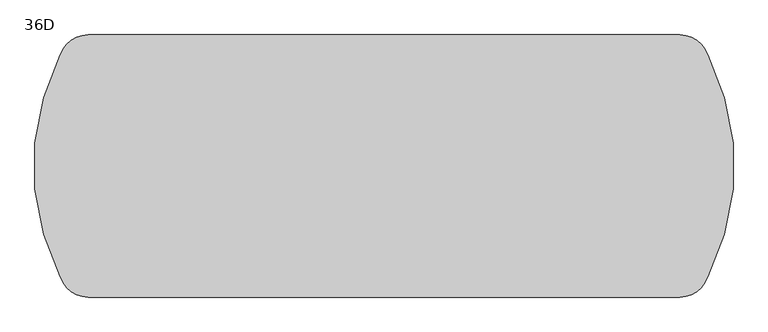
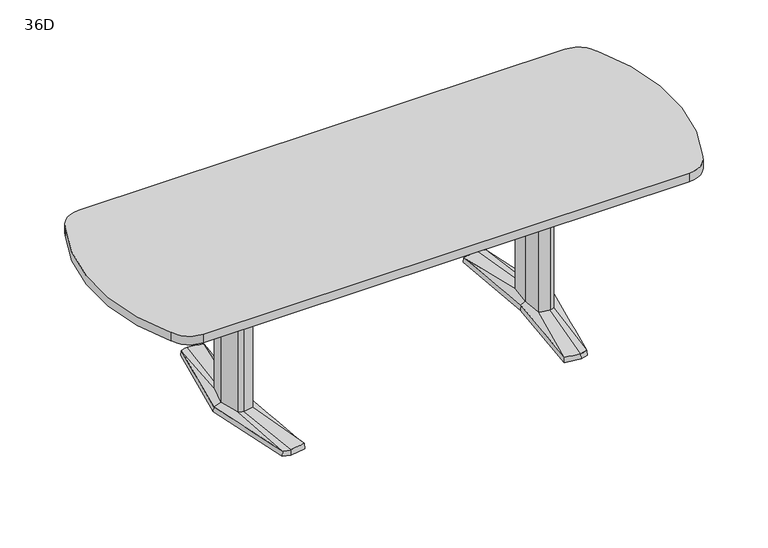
"""IFC4 building model written with IfcOpenShell, lengths in millimetres: furniture geometry, Coalesse_AM_Table_Conference_ETable2_SoftRadiused_96in_AluminiumBase : 36D."""

from ifc_helpers import new_model, si_unit, point, frame, frame_2d, origin, place, context, project, spatial, polyline, circle_curve, trimmed, segment, composite_curve, outline, extrude, source, transform, mapped, element, save
from ifc_brep_helpers import plane_surface, spline_surface, advanced_brep


def furniture_36d_7d7f5c59(model_context):
    return source(origin(), model_context, "Body", "SolidModel", [
        advanced_brep(
        [(614.8503471, -379.3768856, 25.4), (644.5756636, -371.5332654, 25.4), (668.2327243, -89.293702, 36.5125), (648.9795254, -94.605478, 36.5125), (606.0521001, -87.0529327, 36.5125), (551.7612538, -368.5071562, 25.4), (597.9364207, 0.0, 36.5125), (579.8389754, 0.3970149, 25.4), (606.0521001, 87.0529327, 36.5125), (551.7615002, 368.5172593, 25.4), (648.9795254, 94.605478, 36.5125), (614.8502233, 379.3769183, 25.4), (668.2327243, 89.293702, 36.5125), (644.7535458, 371.4863276, 25.4), (692.1595251, 0.0, 36.5125), (721.4851663, 0.0003516, 25.4), (578.2468742, 0.3968871, 3.175), (550.06875, 369.8367279, 3.175), (614.9213004, 381.0, 3.175), (646.1093245, 372.7704151, 3.175), (723.10625, 0.0, 3.175), (645.9309817, -372.8174744, 3.175), (614.9213004, -381.0, 3.175), (550.06875, -369.8264415, 3.175), (649.5979264, 107.6121478, 3.175), (594.3065451, 97.8843184, 3.175), (585.1810887, 0.0, 3.175), (594.3065451, -97.8843184, 3.175), (649.5979264, -107.6121478, 3.175), (678.6183473, -99.6056872, 3.175), (705.3083085, 0.0, 3.175), (678.6183473, 99.6056872, 3.175), (613.4286812, 346.9152841, 3.175), (557.7811371, 337.3364985, 3.175), (560.1889918, 324.8641942, 3.175), (612.8600644, 333.9306305, 3.175), (648.6725609, 324.4807859, 3.175), (647.5544526, 337.9105158, 3.175), (613.4286812, -346.9152841, 3.175), (647.5544526, -337.9105158, 3.175), (648.6725609, -324.4807859, 3.175), (612.8600644, -333.9306305, 3.175), (560.1889918, -324.8641942, 3.175), (557.7811371, -337.3364985, 3.175), (649.5979264, 107.6121478, 0.0), (678.6183473, 99.6056872, 0.0), (705.3083085, 0.0, 0.0), (678.6183473, -99.6056872, 0.0), (649.5979264, -107.6121478, 0.0), (594.3065451, -97.8843184, 0.0), (585.1810887, 0.0, 0.0), (594.3065451, 97.8843184, 0.0), (613.4286812, 346.9152841, 0.0), (647.5544526, 337.9105158, 0.0), (648.6725609, 324.4807859, 0.0), (612.8600644, 333.9306305, 0.0), (560.1889918, 324.8641942, 0.0), (557.7811371, 337.3364985, 0.0), (613.4286812, -346.9152841, 0.0), (557.7811371, -337.3364985, 0.0), (560.1889918, -324.8641942, 0.0), (612.8600644, -333.9306305, 0.0), (648.6725609, -324.4807859, 0.0), (647.5544526, -337.9105158, 0.0), (668.2327243, 89.293702, 698.5), (648.9795254, 94.605478, 698.5), (606.0521001, 87.0529327, 698.5), (597.9364207, 0.0, 698.5), (606.0521001, -87.0529327, 698.5), (648.9795254, -94.605478, 698.5), (668.2327243, -89.293702, 698.5), (692.1595251, 0.0, 698.5)],
        [
            (0, 1),
            (1, 2),
            (2, 3),
            (3, 0),
            (3, 4),
            (4, 5),
            (5, 0),
            (4, 6),
            (6, 7),
            (7, 5),
            (6, 8),
            (8, 9),
            (9, 7),
            (8, 10),
            (10, 11),
            (11, 9),
            (10, 12),
            (12, 13),
            (13, 11),
            (12, 14),
            (14, 15),
            (15, 13),
            (1, 15),
            (14, 2),
            (16, 17),
            (17, 18),
            (18, 19),
            (19, 20),
            (20, 21),
            (21, 22),
            (22, 23),
            (23, 16),
            (24, 25),
            (25, 26),
            (26, 27),
            (27, 28),
            (28, 29),
            (29, 30),
            (30, 31),
            (31, 24),
            (32, 33),
            (33, 34),
            (34, 35),
            (35, 36),
            (36, 37),
            (37, 32),
            (38, 39),
            (39, 40),
            (40, 41),
            (41, 42),
            (42, 43),
            (43, 38),
            (16, 7),
            (9, 17),
            (11, 18),
            (13, 19),
            (15, 20),
            (1, 21),
            (0, 22),
            (5, 23),
            (44, 45),
            (45, 46),
            (46, 47),
            (47, 48),
            (48, 49),
            (49, 50),
            (50, 51),
            (51, 44),
            (52, 53),
            (53, 54),
            (54, 55),
            (55, 56),
            (56, 57),
            (57, 52),
            (58, 59),
            (59, 60),
            (60, 61),
            (61, 62),
            (62, 63),
            (63, 58),
            (44, 24),
            (31, 45),
            (30, 46),
            (29, 47),
            (28, 48),
            (27, 49),
            (26, 50),
            (25, 51),
            (52, 32),
            (37, 53),
            (36, 54),
            (35, 55),
            (34, 56),
            (33, 57),
            (58, 38),
            (43, 59),
            (42, 60),
            (41, 61),
            (40, 62),
            (39, 63),
            (64, 65),
            (65, 66),
            (66, 67),
            (67, 68),
            (68, 69),
            (69, 70),
            (70, 71),
            (71, 64),
            (71, 14),
            (12, 64),
            (70, 2),
            (69, 3),
            (68, 4),
            (67, 6),
            (66, 8),
            (65, 10),
        ],
        [
            spline_surface(1, 1, [[(644.5756636, -371.5332654, 25.4), (614.8503471, -379.3768856, 25.4)], [(668.2327243, -89.293702, 36.5125), (648.9795254, -94.605478, 36.5125)]], [2, 2], [2, 2], [0.0, 1.0], [0.0, 1.0]),
            spline_surface(1, 1, [[(614.8503471, -379.3768856, 25.4), (551.7612538, -368.5071562, 25.4)], [(648.9795254, -94.605478, 36.5125), (606.0521001, -87.0529327, 36.5125)]], [2, 2], [2, 2], [0.0, 1.0], [0.0, 1.0]),
            spline_surface(1, 1, [[(551.7612538, -368.5071562, 25.4), (579.8389754, 0.3970149, 25.4)], [(606.0521001, -87.0529327, 36.5125), (597.9364207, 0.0, 36.5125)]], [2, 2], [2, 2], [0.0, 1.0], [0.0, 1.0]),
            spline_surface(1, 1, [[(579.8389754, 0.3970149, 25.4), (551.7615002, 368.5172593, 25.4)], [(597.9364207, 0.0, 36.5125), (606.0521001, 87.0529327, 36.5125)]], [2, 2], [2, 2], [0.0, 1.0], [0.0, 1.0]),
            spline_surface(1, 1, [[(551.7615002, 368.5172593, 25.4), (614.8502233, 379.3769183, 25.4)], [(606.0521001, 87.0529327, 36.5125), (648.9795254, 94.605478, 36.5125)]], [2, 2], [2, 2], [0.0, 1.0], [0.0, 1.0]),
            spline_surface(1, 1, [[(614.8502233, 379.3769183, 25.4), (644.7535458, 371.4863276, 25.4)], [(648.9795254, 94.605478, 36.5125), (668.2327243, 89.293702, 36.5125)]], [2, 2], [2, 2], [0.0, 1.0], [0.0, 1.0]),
            spline_surface(1, 1, [[(644.7535458, 371.4863276, 25.4), (721.4851663, 0.0003516, 25.4)], [(668.2327243, 89.293702, 36.5125), (692.1595251, 0.0, 36.5125)]], [2, 2], [2, 2], [0.0, 1.0], [0.0, 1.0]),
            spline_surface(1, 1, [[(721.4851663, 0.0003516, 25.4), (644.5756636, -371.5332654, 25.4)], [(692.1595251, 0.0, 36.5125), (668.2327243, -89.293702, 36.5125)]], [2, 2], [2, 2], [0.0, 1.0], [0.0, 1.0]),
            plane_surface(frame((615.4216914, 0.0450143, 3.175), z_axis=(0.0, 0.0, -1.0), x_axis=(-0.9669048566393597, -0.2551372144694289, 0.0))),
            plane_surface(frame((564.1578121, 185.1168075, 3.175), z_axis=(-0.9945699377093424, -0.07585840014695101, 0.0712470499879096), x_axis=(-0.07605167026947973, 0.9971038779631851, 0.0))),
            plane_surface(frame((582.4950252, 375.418364, 3.175), z_axis=(-0.1692071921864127, 0.9830019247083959, 0.07124704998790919), x_axis=(0.985506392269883, 0.16963829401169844, 0.0))),
            plane_surface(frame((630.5153124, 376.8852076, 3.175), z_axis=(0.2544888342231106, 0.9644476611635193, 0.07124704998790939), x_axis=(0.9669048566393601, -0.25513721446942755, 0.0))),
            plane_surface(frame((684.6077872, 186.3852076, 3.175), z_axis=(0.9768383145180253, 0.2017690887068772, 0.07124704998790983), x_axis=(0.20228315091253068, -0.9793270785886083, 0.0))),
            plane_surface(frame((684.5186158, -186.4087372, 3.175), z_axis=(0.9767507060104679, -0.20219276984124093, 0.07124704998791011), x_axis=(-0.2027079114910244, -0.9792392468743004, 0.0))),
            plane_surface(frame((630.426141, -376.9087372, 3.175), z_axis=(0.2544888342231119, -0.9644476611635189, 0.0712470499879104), x_axis=(-0.9669048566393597, -0.2551372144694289, 0.0))),
            plane_surface(frame((582.4950252, -375.4132207, 3.175), z_axis=(-0.16935861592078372, -0.982975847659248, 0.07124704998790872), x_axis=(-0.9854802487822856, 0.16979010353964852, 0.0))),
            plane_surface(frame((564.1578121, -184.7147772, 3.175), z_axis=(-0.9945820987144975, 0.07569878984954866, 0.07124704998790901), x_axis=(0.07589165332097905, 0.9971160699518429, 0.0))),
            plane_surface(frame((652.3571479, 106.8509046, 0.0), z_axis=(0.0, 0.0, -1.0000000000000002), x_axis=(-0.9639855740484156, 0.26595453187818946, 0.0))),
            plane_surface(frame((649.5979264, 107.6121478, 3.175), z_axis=(0.26595453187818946, 0.9639855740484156, 0.0), x_axis=(0.0, 0.0, -1.0))),
            plane_surface(frame((678.6183473, 99.6056872, 3.175), z_axis=(0.9659241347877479, 0.2588253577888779, 0.0), x_axis=(0.0, 0.0, -1.0))),
            plane_surface(frame((705.3083085, 0.0, 3.175), z_axis=(0.9659241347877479, -0.2588253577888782, 0.0), x_axis=(0.0, 0.0, -1.0))),
            plane_surface(frame((678.6183473, -99.6056872, 3.175), z_axis=(0.26595453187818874, -0.9639855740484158, 0.0), x_axis=(0.0, 0.0, -1.0))),
            plane_surface(frame((649.5979264, -107.6121478, 3.175), z_axis=(-0.17327617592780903, -0.9848732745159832, 0.0), x_axis=(0.0, 0.0, -1.0))),
            plane_surface(frame((594.3065451, -97.8843184, 3.175), z_axis=(-0.9956824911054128, -0.0928244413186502, 0.0), x_axis=(0.0, 0.0, -1.0))),
            plane_surface(frame((585.1810887, 0.0, 3.175), z_axis=(-0.9956824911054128, 0.09282444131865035, 0.0), x_axis=(0.0, 0.0, -1.0))),
            plane_surface(frame((594.3065451, 97.8843184, 3.175), z_axis=(-0.17327617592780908, 0.984873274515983, 0.0), x_axis=(0.0, 0.0, -1.0))),
            plane_surface(frame((613.4286812, 346.9152841, 3.175), z_axis=(0.25513721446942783, 0.9669048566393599, 0.0), x_axis=(0.0, 0.0, -1.0))),
            plane_surface(frame((647.5544526, 337.9105158, 3.175), z_axis=(0.9965521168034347, 0.0829691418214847, 0.0), x_axis=(0.0, 0.0, -1.0))),
            plane_surface(frame((648.6725609, 324.4807859, 3.175), z_axis=(-0.25513721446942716, -0.9669048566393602, 0.0), x_axis=(0.0, 0.0, -1.0))),
            plane_surface(frame((612.8600644, 333.9306305, 3.175), z_axis=(0.16963829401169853, -0.985506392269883, 0.0), x_axis=(0.0, 0.0, -1.0))),
            plane_surface(frame((560.1889918, 324.8641942, 3.175), z_axis=(-0.9818699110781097, -0.18955600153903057, 0.0), x_axis=(0.0, 0.0, -1.0))),
            plane_surface(frame((557.7811371, 337.3364985, 3.175), z_axis=(-0.16963829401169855, 0.9855063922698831, 0.0), x_axis=(0.0, 0.0, -1.0))),
            plane_surface(frame((613.4286812, -346.9152841, 3.175), z_axis=(-0.1696382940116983, -0.9855063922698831, 0.0), x_axis=(0.0, 0.0, -1.0))),
            plane_surface(frame((557.7811371, -337.3364985, 3.175), z_axis=(-0.9818699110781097, 0.18955600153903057, 0.0), x_axis=(0.0, 0.0, -1.0))),
            plane_surface(frame((560.1889918, -324.8641942, 3.175), z_axis=(0.16963829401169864, 0.985506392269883, 0.0), x_axis=(0.0, 0.0, -1.0))),
            plane_surface(frame((612.8600644, -333.9306305, 3.175), z_axis=(-0.2551372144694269, 0.9669048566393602, 0.0), x_axis=(0.0, 0.0, -1.0))),
            plane_surface(frame((648.6725609, -324.4807859, 3.175), z_axis=(0.9965521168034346, -0.0829691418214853, 0.0), x_axis=(0.0, 0.0, -1.0))),
            plane_surface(frame((647.5544526, -337.9105158, 3.175), z_axis=(0.2551372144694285, -0.9669048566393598, 0.0), x_axis=(0.0, 0.0, -1.0))),
            plane_surface(frame((692.1595251, 0.0, 698.5), z_axis=(0.0, 0.0, 1.0), x_axis=(0.25882535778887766, -0.965924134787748, 0.0))),
            plane_surface(frame((668.2327243, 89.293702, 698.5), z_axis=(0.965924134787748, 0.25882535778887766, 0.0), x_axis=(0.0, 0.0, -1.0))),
            plane_surface(frame((692.1595251, 0.0, 698.5), z_axis=(0.965924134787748, -0.2588253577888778, 0.0), x_axis=(0.0, 0.0, -1.0))),
            plane_surface(frame((668.2327243, -89.293702, 698.5), z_axis=(0.2659545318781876, -0.963985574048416, 0.0), x_axis=(0.0, 0.0, -1.0))),
            plane_surface(frame((648.9795254, -94.605478, 698.5), z_axis=(-0.1732761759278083, -0.9848732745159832, 0.0), x_axis=(0.0, 0.0, -1.0))),
            plane_surface(frame((606.0521001, -87.0529327, 698.5), z_axis=(-0.9956824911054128, -0.0928244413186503, 0.0), x_axis=(0.0, 0.0, -1.0))),
            plane_surface(frame((597.9364207, 0.0, 698.5), z_axis=(-0.9956824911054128, 0.09282444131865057, 0.0), x_axis=(0.0, 0.0, -1.0))),
            plane_surface(frame((606.0521001, 87.0529327, 698.5), z_axis=(-0.17327617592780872, 0.9848732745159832, 0.0), x_axis=(0.0, 0.0, -1.0))),
            plane_surface(frame((648.9795254, 94.605478, 698.5), z_axis=(0.26595453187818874, 0.9639855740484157, 0.0), x_axis=(0.0, 0.0, -1.0))),
        ],
        [
            (0, [[1, 2, 3, 4]]),
            (1, [[5, 6, 7, -4]]),
            (2, [[8, 9, 10, -6]]),
            (3, [[11, 12, 13, -9]]),
            (4, [[14, 15, 16, -12]]),
            (5, [[17, 18, 19, -15]]),
            (6, [[20, 21, 22, -18]]),
            (7, [[23, -21, 24, -2]]),
            (8, [[25, 26, 27, 28, 29, 30, 31, 32], [33, 34, 35, 36, 37, 38, 39, 40], [41, 42, 43, 44, 45, 46], [47, 48, 49, 50, 51, 52]]),
            (9, [[53, -13, 54, -25]]),
            (10, [[-54, -16, 55, -26]]),
            (11, [[-55, -19, 56, -27]]),
            (12, [[-56, -22, 57, -28]]),
            (13, [[-57, -23, 58, -29]]),
            (14, [[-58, -1, 59, -30]]),
            (15, [[-59, -7, 60, -31]]),
            (16, [[-60, -10, -53, -32]]),
            (17, [[61, 62, 63, 64, 65, 66, 67, 68]]),
            (17, [[69, 70, 71, 72, 73, 74]]),
            (17, [[75, 76, 77, 78, 79, 80]]),
            (18, [[81, -40, 82, -61]]),
            (19, [[-82, -39, 83, -62]]),
            (20, [[-83, -38, 84, -63]]),
            (21, [[-84, -37, 85, -64]]),
            (22, [[-85, -36, 86, -65]]),
            (23, [[-86, -35, 87, -66]]),
            (24, [[-87, -34, 88, -67]]),
            (25, [[-88, -33, -81, -68]]),
            (26, [[89, -46, 90, -69]]),
            (27, [[-90, -45, 91, -70]]),
            (28, [[-91, -44, 92, -71]]),
            (29, [[-92, -43, 93, -72]]),
            (30, [[-93, -42, 94, -73]]),
            (31, [[-94, -41, -89, -74]]),
            (32, [[95, -52, 96, -75]]),
            (33, [[-96, -51, 97, -76]]),
            (34, [[-97, -50, 98, -77]]),
            (35, [[-98, -49, 99, -78]]),
            (36, [[-99, -48, 100, -79]]),
            (37, [[-100, -47, -95, -80]]),
            (38, [[101, 102, 103, 104, 105, 106, 107, 108]]),
            (39, [[109, -20, 110, -108]]),
            (40, [[111, -24, -109, -107]]),
            (41, [[112, -3, -111, -106]]),
            (42, [[113, -5, -112, -105]]),
            (43, [[114, -8, -113, -104]]),
            (44, [[115, -11, -114, -103]]),
            (45, [[116, -14, -115, -102]]),
            (46, [[-110, -17, -116, -101]]),
        ],
    ),
        advanced_brep(
        [(-614.8503471, -379.3768856, 25.4), (-648.9795254, -94.605478, 36.5125), (-668.2327243, -89.293702, 36.5125), (-644.5756636, -371.5332654, 25.4), (-551.7612538, -368.5071562, 25.4), (-606.0521001, -87.0529327, 36.5125), (-579.8389754, 0.3970149, 25.4), (-597.9364207, 0.0, 36.5125), (-551.7615002, 368.5172593, 25.4), (-606.0521001, 87.0529327, 36.5125), (-614.8502233, 379.3769183, 25.4), (-648.9795254, 94.605478, 36.5125), (-644.7535458, 371.4863276, 25.4), (-668.2327243, 89.293702, 36.5125), (-721.4851663, 0.0003516, 25.4), (-692.1595251, 0.0, 36.5125), (-578.2468742, 0.3968871, 3.175), (-550.06875, -369.8264415, 3.175), (-614.9213004, -381.0, 3.175), (-645.9309817, -372.8174744, 3.175), (-723.10625, 0.0, 3.175), (-646.1093245, 372.7704151, 3.175), (-614.9213004, 381.0, 3.175), (-550.06875, 369.8367279, 3.175), (-649.5979264, 107.6121478, 3.175), (-678.6183473, 99.6056872, 3.175), (-705.3083085, 0.0, 3.175), (-678.6183473, -99.6056872, 3.175), (-649.5979264, -107.6121478, 3.175), (-594.3065451, -97.8843184, 3.175), (-585.1810887, 0.0, 3.175), (-594.3065451, 97.8843184, 3.175), (-613.4286812, 346.9152841, 3.175), (-647.5544526, 337.9105158, 3.175), (-648.6725609, 324.4807859, 3.175), (-612.8600644, 333.9306305, 3.175), (-560.1889918, 324.8641942, 3.175), (-557.7811371, 337.3364985, 3.175), (-613.4286812, -346.9152841, 3.175), (-557.7811371, -337.3364985, 3.175), (-560.1889918, -324.8641942, 3.175), (-612.8600644, -333.9306305, 3.175), (-648.6725609, -324.4807859, 3.175), (-647.5544526, -337.9105158, 3.175), (-649.5979264, 107.6121478, 0.0), (-594.3065451, 97.8843184, 0.0), (-585.1810887, 0.0, 0.0), (-594.3065451, -97.8843184, 0.0), (-649.5979264, -107.6121478, 0.0), (-678.6183473, -99.6056872, 0.0), (-705.3083085, 0.0, 0.0), (-678.6183473, 99.6056872, 0.0), (-613.4286812, 346.9152841, 0.0), (-557.7811371, 337.3364985, 0.0), (-560.1889918, 324.8641942, 0.0), (-612.8600644, 333.9306305, 0.0), (-648.6725609, 324.4807859, 0.0), (-647.5544526, 337.9105158, 0.0), (-613.4286812, -346.9152841, 0.0), (-647.5544526, -337.9105158, 0.0), (-648.6725609, -324.4807859, 0.0), (-612.8600644, -333.9306305, 0.0), (-560.1889918, -324.8641942, 0.0), (-557.7811371, -337.3364985, 0.0), (-668.2327243, 89.293702, 698.5), (-692.1595251, 0.0, 698.5), (-668.2327243, -89.293702, 698.5), (-648.9795254, -94.605478, 698.5), (-606.0521001, -87.0529327, 698.5), (-597.9364207, 0.0, 698.5), (-606.0521001, 87.0529327, 698.5), (-648.9795254, 94.605478, 698.5)],
        [
            (0, 1),
            (1, 2),
            (2, 3),
            (3, 0),
            (0, 4),
            (4, 5),
            (5, 1),
            (4, 6),
            (6, 7),
            (7, 5),
            (6, 8),
            (8, 9),
            (9, 7),
            (8, 10),
            (10, 11),
            (11, 9),
            (10, 12),
            (12, 13),
            (13, 11),
            (12, 14),
            (14, 15),
            (15, 13),
            (2, 15),
            (14, 3),
            (16, 17),
            (17, 18),
            (18, 19),
            (19, 20),
            (20, 21),
            (21, 22),
            (22, 23),
            (23, 16),
            (24, 25),
            (25, 26),
            (26, 27),
            (27, 28),
            (28, 29),
            (29, 30),
            (30, 31),
            (31, 24),
            (32, 33),
            (33, 34),
            (34, 35),
            (35, 36),
            (36, 37),
            (37, 32),
            (38, 39),
            (39, 40),
            (40, 41),
            (41, 42),
            (42, 43),
            (43, 38),
            (23, 8),
            (6, 16),
            (22, 10),
            (21, 12),
            (20, 14),
            (19, 3),
            (18, 0),
            (17, 4),
            (44, 45),
            (45, 46),
            (46, 47),
            (47, 48),
            (48, 49),
            (49, 50),
            (50, 51),
            (51, 44),
            (52, 53),
            (53, 54),
            (54, 55),
            (55, 56),
            (56, 57),
            (57, 52),
            (58, 59),
            (59, 60),
            (60, 61),
            (61, 62),
            (62, 63),
            (63, 58),
            (51, 25),
            (24, 44),
            (50, 26),
            (49, 27),
            (48, 28),
            (47, 29),
            (46, 30),
            (45, 31),
            (57, 33),
            (32, 52),
            (56, 34),
            (55, 35),
            (54, 36),
            (53, 37),
            (63, 39),
            (38, 58),
            (62, 40),
            (61, 41),
            (60, 42),
            (59, 43),
            (64, 65),
            (65, 66),
            (66, 67),
            (67, 68),
            (68, 69),
            (69, 70),
            (70, 71),
            (71, 64),
            (64, 13),
            (15, 65),
            (2, 66),
            (1, 67),
            (5, 68),
            (7, 69),
            (9, 70),
            (11, 71),
        ],
        [
            spline_surface(1, 1, [[(-644.5756636, -371.5332654, 25.4), (-668.2327243, -89.293702, 36.5125)], [(-614.8503471, -379.3768856, 25.4), (-648.9795254, -94.605478, 36.5125)]], [2, 2], [2, 2], [0.0, 1.0], [0.0, 1.0]),
            spline_surface(1, 1, [[(-614.8503471, -379.3768856, 25.4), (-648.9795254, -94.605478, 36.5125)], [(-551.7612538, -368.5071562, 25.4), (-606.0521001, -87.0529327, 36.5125)]], [2, 2], [2, 2], [0.0, 1.0], [0.0, 1.0]),
            spline_surface(1, 1, [[(-551.7612538, -368.5071562, 25.4), (-606.0521001, -87.0529327, 36.5125)], [(-579.8389754, 0.3970149, 25.4), (-597.9364207, 0.0, 36.5125)]], [2, 2], [2, 2], [0.0, 1.0], [0.0, 1.0]),
            spline_surface(1, 1, [[(-579.8389754, 0.3970149, 25.4), (-597.9364207, 0.0, 36.5125)], [(-551.7615002, 368.5172593, 25.4), (-606.0521001, 87.0529327, 36.5125)]], [2, 2], [2, 2], [0.0, 1.0], [0.0, 1.0]),
            spline_surface(1, 1, [[(-551.7615002, 368.5172593, 25.4), (-606.0521001, 87.0529327, 36.5125)], [(-614.8502233, 379.3769183, 25.4), (-648.9795254, 94.605478, 36.5125)]], [2, 2], [2, 2], [0.0, 1.0], [0.0, 1.0]),
            spline_surface(1, 1, [[(-614.8502233, 379.3769183, 25.4), (-648.9795254, 94.605478, 36.5125)], [(-644.7535458, 371.4863276, 25.4), (-668.2327243, 89.293702, 36.5125)]], [2, 2], [2, 2], [0.0, 1.0], [0.0, 1.0]),
            spline_surface(1, 1, [[(-644.7535458, 371.4863276, 25.4), (-668.2327243, 89.293702, 36.5125)], [(-721.4851663, 0.0003516, 25.4), (-692.1595251, 0.0, 36.5125)]], [2, 2], [2, 2], [0.0, 1.0], [0.0, 1.0]),
            spline_surface(1, 1, [[(-721.4851663, 0.0003516, 25.4), (-692.1595251, 0.0, 36.5125)], [(-644.5756636, -371.5332654, 25.4), (-668.2327243, -89.293702, 36.5125)]], [2, 2], [2, 2], [0.0, 1.0], [0.0, 1.0]),
            plane_surface(frame((-615.4216914, 0.0450143, 3.175), z_axis=(0.0, 0.0, -1.0), x_axis=(0.9669048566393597, -0.2551372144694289, 0.0))),
            plane_surface(frame((-564.1578121, 185.1168075, 3.175), z_axis=(0.9945699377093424, -0.07585840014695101, 0.0712470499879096), x_axis=(0.07605167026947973, 0.9971038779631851, 0.0))),
            plane_surface(frame((-582.4950252, 375.418364, 3.175), z_axis=(0.1692071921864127, 0.9830019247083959, 0.07124704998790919), x_axis=(-0.985506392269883, 0.16963829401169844, 0.0))),
            plane_surface(frame((-630.5153124, 376.8852076, 3.175), z_axis=(-0.2544888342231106, 0.9644476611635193, 0.07124704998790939), x_axis=(-0.9669048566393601, -0.25513721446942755, 0.0))),
            plane_surface(frame((-684.6077872, 186.3852076, 3.175), z_axis=(-0.9768383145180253, 0.2017690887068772, 0.07124704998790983), x_axis=(-0.20228315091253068, -0.9793270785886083, 0.0))),
            plane_surface(frame((-684.5186158, -186.4087372, 3.175), z_axis=(-0.9767507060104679, -0.20219276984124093, 0.07124704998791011), x_axis=(0.2027079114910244, -0.9792392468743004, 0.0))),
            plane_surface(frame((-630.426141, -376.9087372, 3.175), z_axis=(-0.2544888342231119, -0.9644476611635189, 0.0712470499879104), x_axis=(0.9669048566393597, -0.2551372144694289, 0.0))),
            plane_surface(frame((-582.4950252, -375.4132207, 3.175), z_axis=(0.16935861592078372, -0.982975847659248, 0.07124704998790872), x_axis=(0.9854802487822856, 0.16979010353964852, 0.0))),
            plane_surface(frame((-564.1578121, -184.7147772, 3.175), z_axis=(0.9945820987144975, 0.07569878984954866, 0.07124704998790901), x_axis=(-0.07589165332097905, 0.9971160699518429, 0.0))),
            plane_surface(frame((-652.3571479, 106.8509046, 0.0), z_axis=(0.0, 0.0, -1.0000000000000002), x_axis=(0.9639855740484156, 0.26595453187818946, 0.0))),
            plane_surface(frame((-649.5979264, 107.6121478, 3.175), z_axis=(-0.26595453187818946, 0.9639855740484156, 0.0), x_axis=(0.0, 0.0, -1.0))),
            plane_surface(frame((-678.6183473, 99.6056872, 3.175), z_axis=(-0.9659241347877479, 0.2588253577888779, 0.0), x_axis=(0.0, 0.0, -1.0))),
            plane_surface(frame((-705.3083085, 0.0, 3.175), z_axis=(-0.9659241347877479, -0.2588253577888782, 0.0), x_axis=(0.0, 0.0, -1.0))),
            plane_surface(frame((-678.6183473, -99.6056872, 3.175), z_axis=(-0.26595453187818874, -0.9639855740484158, 0.0), x_axis=(0.0, 0.0, -1.0))),
            plane_surface(frame((-649.5979264, -107.6121478, 3.175), z_axis=(0.17327617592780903, -0.9848732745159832, 0.0), x_axis=(0.0, 0.0, -1.0))),
            plane_surface(frame((-594.3065451, -97.8843184, 3.175), z_axis=(0.9956824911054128, -0.0928244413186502, 0.0), x_axis=(0.0, 0.0, -1.0))),
            plane_surface(frame((-585.1810887, 0.0, 3.175), z_axis=(0.9956824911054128, 0.09282444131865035, 0.0), x_axis=(0.0, 0.0, -1.0))),
            plane_surface(frame((-594.3065451, 97.8843184, 3.175), z_axis=(0.17327617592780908, 0.984873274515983, 0.0), x_axis=(0.0, 0.0, -1.0))),
            plane_surface(frame((-613.4286812, 346.9152841, 3.175), z_axis=(-0.25513721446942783, 0.9669048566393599, 0.0), x_axis=(0.0, 0.0, -1.0))),
            plane_surface(frame((-647.5544526, 337.9105158, 3.175), z_axis=(-0.9965521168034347, 0.0829691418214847, 0.0), x_axis=(0.0, 0.0, -1.0))),
            plane_surface(frame((-648.6725609, 324.4807859, 3.175), z_axis=(0.25513721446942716, -0.9669048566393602, 0.0), x_axis=(0.0, 0.0, -1.0))),
            plane_surface(frame((-612.8600644, 333.9306305, 3.175), z_axis=(-0.16963829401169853, -0.985506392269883, 0.0), x_axis=(0.0, 0.0, -1.0))),
            plane_surface(frame((-560.1889918, 324.8641942, 3.175), z_axis=(0.9818699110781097, -0.18955600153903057, 0.0), x_axis=(0.0, 0.0, -1.0))),
            plane_surface(frame((-557.7811371, 337.3364985, 3.175), z_axis=(0.16963829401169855, 0.9855063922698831, 0.0), x_axis=(0.0, 0.0, -1.0))),
            plane_surface(frame((-613.4286812, -346.9152841, 3.175), z_axis=(0.1696382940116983, -0.9855063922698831, 0.0), x_axis=(0.0, 0.0, -1.0))),
            plane_surface(frame((-557.7811371, -337.3364985, 3.175), z_axis=(0.9818699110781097, 0.18955600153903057, 0.0), x_axis=(0.0, 0.0, -1.0))),
            plane_surface(frame((-560.1889918, -324.8641942, 3.175), z_axis=(-0.16963829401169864, 0.985506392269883, 0.0), x_axis=(0.0, 0.0, -1.0))),
            plane_surface(frame((-612.8600644, -333.9306305, 3.175), z_axis=(0.2551372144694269, 0.9669048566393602, 0.0), x_axis=(0.0, 0.0, -1.0))),
            plane_surface(frame((-648.6725609, -324.4807859, 3.175), z_axis=(-0.9965521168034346, -0.0829691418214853, 0.0), x_axis=(0.0, 0.0, -1.0))),
            plane_surface(frame((-647.5544526, -337.9105158, 3.175), z_axis=(-0.2551372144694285, -0.9669048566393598, 0.0), x_axis=(0.0, 0.0, -1.0))),
            plane_surface(frame((-692.1595251, 0.0, 698.5), z_axis=(0.0, 0.0, 1.0), x_axis=(-0.25882535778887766, -0.965924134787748, 0.0))),
            plane_surface(frame((-668.2327243, 89.293702, 698.5), z_axis=(-0.965924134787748, 0.25882535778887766, 0.0), x_axis=(0.0, 0.0, -1.0))),
            plane_surface(frame((-692.1595251, 0.0, 698.5), z_axis=(-0.965924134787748, -0.2588253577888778, 0.0), x_axis=(0.0, 0.0, -1.0))),
            plane_surface(frame((-668.2327243, -89.293702, 698.5), z_axis=(-0.2659545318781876, -0.963985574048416, 0.0), x_axis=(0.0, 0.0, -1.0))),
            plane_surface(frame((-648.9795254, -94.605478, 698.5), z_axis=(0.1732761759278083, -0.9848732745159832, 0.0), x_axis=(0.0, 0.0, -1.0))),
            plane_surface(frame((-606.0521001, -87.0529327, 698.5), z_axis=(0.9956824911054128, -0.0928244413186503, 0.0), x_axis=(0.0, 0.0, -1.0))),
            plane_surface(frame((-597.9364207, 0.0, 698.5), z_axis=(0.9956824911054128, 0.09282444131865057, 0.0), x_axis=(0.0, 0.0, -1.0))),
            plane_surface(frame((-606.0521001, 87.0529327, 698.5), z_axis=(0.17327617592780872, 0.9848732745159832, 0.0), x_axis=(0.0, 0.0, -1.0))),
            plane_surface(frame((-648.9795254, 94.605478, 698.5), z_axis=(-0.26595453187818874, 0.9639855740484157, 0.0), x_axis=(0.0, 0.0, -1.0))),
        ],
        [
            (0, [[1, 2, 3, 4]]),
            (1, [[-1, 5, 6, 7]]),
            (2, [[-6, 8, 9, 10]]),
            (3, [[-9, 11, 12, 13]]),
            (4, [[-12, 14, 15, 16]]),
            (5, [[-15, 17, 18, 19]]),
            (6, [[-18, 20, 21, 22]]),
            (7, [[-3, 23, -21, 24]]),
            (8, [[25, 26, 27, 28, 29, 30, 31, 32], [33, 34, 35, 36, 37, 38, 39, 40], [41, 42, 43, 44, 45, 46], [47, 48, 49, 50, 51, 52]]),
            (9, [[-32, 53, -11, 54]]),
            (10, [[-31, 55, -14, -53]]),
            (11, [[-30, 56, -17, -55]]),
            (12, [[-29, 57, -20, -56]]),
            (13, [[-28, 58, -24, -57]]),
            (14, [[-27, 59, -4, -58]]),
            (15, [[-26, 60, -5, -59]]),
            (16, [[-25, -54, -8, -60]]),
            (17, [[61, 62, 63, 64, 65, 66, 67, 68]]),
            (17, [[69, 70, 71, 72, 73, 74]]),
            (17, [[75, 76, 77, 78, 79, 80]]),
            (18, [[-68, 81, -33, 82]]),
            (19, [[-67, 83, -34, -81]]),
            (20, [[-66, 84, -35, -83]]),
            (21, [[-65, 85, -36, -84]]),
            (22, [[-64, 86, -37, -85]]),
            (23, [[-63, 87, -38, -86]]),
            (24, [[-62, 88, -39, -87]]),
            (25, [[-61, -82, -40, -88]]),
            (26, [[-74, 89, -41, 90]]),
            (27, [[-73, 91, -42, -89]]),
            (28, [[-72, 92, -43, -91]]),
            (29, [[-71, 93, -44, -92]]),
            (30, [[-70, 94, -45, -93]]),
            (31, [[-69, -90, -46, -94]]),
            (32, [[-80, 95, -47, 96]]),
            (33, [[-79, 97, -48, -95]]),
            (34, [[-78, 98, -49, -97]]),
            (35, [[-77, 99, -50, -98]]),
            (36, [[-76, 100, -51, -99]]),
            (37, [[-75, -96, -52, -100]]),
            (38, [[101, 102, 103, 104, 105, 106, 107, 108]]),
            (39, [[-101, 109, -22, 110]]),
            (40, [[-102, -110, -23, 111]]),
            (41, [[-103, -111, -2, 112]]),
            (42, [[-104, -112, -7, 113]]),
            (43, [[-105, -113, -10, 114]]),
            (44, [[-106, -114, -13, 115]]),
            (45, [[-107, -115, -16, 116]]),
            (46, [[-108, -116, -19, -109]]),
        ],
    ),
        extrude(outline(polyline([(96.8375, 698.5), (103.1875, 698.5), (103.1875, 476.25), (-103.1875, 476.25), (-103.1875, 698.5), (-96.8375, 698.5), (-96.8375, 482.6), (96.8375, 482.6), (96.8375, 698.5)])), frame((-597.9364207, 0.0, 0.0), z_axis=(1.0, 0.0, 0.0), x_axis=(0.0, 1.0, 0.0)), (0.0, 0.0, 1.0), 1195.8728415),
        extrude(outline(composite_curve([segment(polyline([(-1125.8457112, -389.4652296), (-1126.6015465, -387.3273037)]), True, "CONTINUOUS"), segment(trimmed(circle_curve(frame_2d((-362.820048, 0.0025878)), 856.379952), [point((-1126.6015465, -387.3273037))], [point((-1126.5956256, 387.3441544))], False, "CARTESIAN"), True, "CONTINUOUS"), segment(polyline([(-1126.5956256, 387.3441544), (-1125.8453442, 389.4662966)]), True, "CONTINUOUS"), segment(trimmed(circle_curve(frame_2d((-1030.0558148, 355.6)), 101.6), [point((-1125.8453442, 389.4662966))], [point((-1030.0558148, 457.2))], False, "CARTESIAN"), True, "CONTINUOUS"), segment(polyline([(-1030.0558148, 457.2), (1030.0557872, 457.2)]), True, "CONTINUOUS"), segment(trimmed(circle_curve(frame_2d((1030.0557872, 355.5999756)), 101.6000244), [point((1030.0557872, 457.2))], [point((1125.8457112, 389.4652296))], False, "CARTESIAN"), True, "CONTINUOUS"), segment(polyline([(1125.8457112, 389.4652296), (1126.6015465, 387.3323756)]), True, "CONTINUOUS"), segment(trimmed(circle_curve(frame_2d((362.8094405, -5.18e-05)), 856.3905595), [point((1126.6015465, 387.3323756))], [point((1126.5956256, -387.3441544))], False, "CARTESIAN"), True, "CONTINUOUS"), segment(polyline([(1126.5956256, -387.3441544), (1125.8453442, -389.4662966)]), True, "CONTINUOUS"), segment(trimmed(circle_curve(frame_2d((1030.0558148, -355.6)), 101.6), [point((1125.8453442, -389.4662966))], [point((1030.0558148, -457.2))], False, "CARTESIAN"), True, "CONTINUOUS"), segment(polyline([(1030.0558148, -457.2), (-1030.0557872, -457.2)]), True, "CONTINUOUS"), segment(trimmed(circle_curve(frame_2d((-1030.0557872, -355.5999756)), 101.6000244), [point((-1030.0557872, -457.2))], [point((-1125.8457112, -389.4652296))], False, "CARTESIAN"), True, "CONTINUOUS")], self_intersect=False)), frame((0.0, 0.0, 698.5), z_axis=(0.0, 0.0, 1.0), x_axis=(1.0, 0.0, 0.0)), (0.0, 0.0, 1.0), 38.1),
    ])


if __name__ == "__main__":
    model = new_model("IFC4")
    model_context = context("Model", 3, world=origin())
    ifc_project = project(units=[si_unit("LENGTHUNIT", "METRE", prefix="MILLI")], contexts=[model_context])
    site = spatial("IfcSite", under=ifc_project)
    building = spatial("IfcBuilding", under=site)
    placement = place(None, origin())
    furniture_36d_shape = furniture_36d_7d7f5c59(model_context)
    element("IfcFurniture", 1, ObjectType="Coalesse_AM_Table_Conference_ETable2_SoftRadiused_96in_AluminiumBase : 36D", at=placement, inside=building, context=model_context, shape_type="MappedRepresentation", body=[
        mapped(furniture_36d_shape, transform((0.0, 0.0, 0.0), x_axis=(1.0, 0.0, 0.0), y_axis=(0.0, 1.0, 0.0), z_axis=(0.0, 0.0, 1.0))),
    ])
    save(model, "model.ifc")
